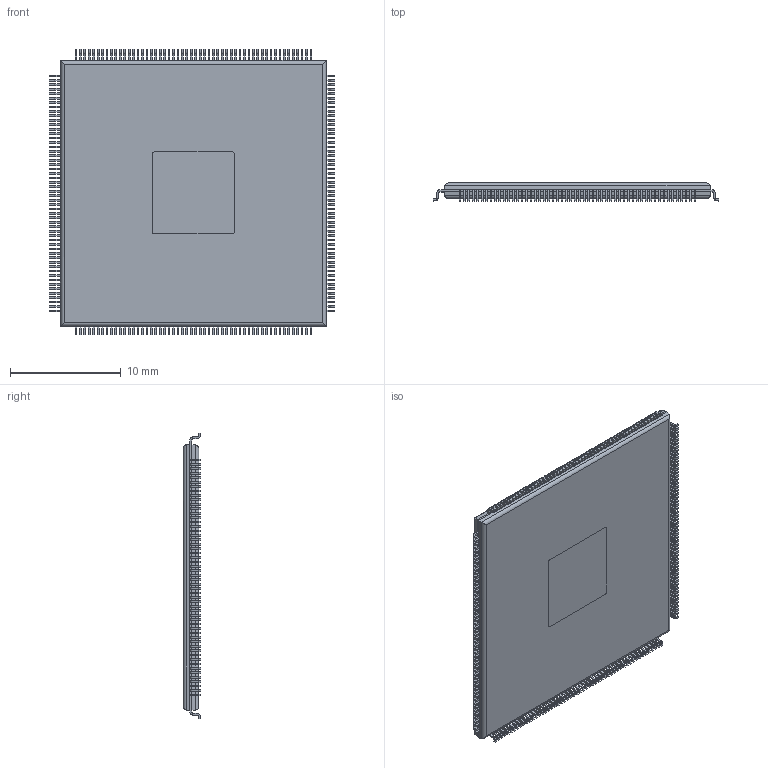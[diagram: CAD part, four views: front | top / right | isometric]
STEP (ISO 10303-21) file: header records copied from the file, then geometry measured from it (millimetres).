
FILE_DESCRIPTION(('STEP AP214'),'1');
FILE_NAME('Indigo4-L_Outline_r2.stp','2024-02-15T06:00:56',(' '),(' '),'Spatial InterOp 3D',' ',' ');
FILE_SCHEMA(('AUTOMOTIVE_DESIGN { 1 0 10303 214 1 1 1 1 }'));
Length unit declared in the file: metre
Products named in the file (1): Mold
Bounding box: 25.76 x 1.59 x 25.76 mm (x, y, z)
Volume: 807.7 mm3; surface area: 1597.1 mm2
Topology: 218 solids, 218 shells, 3074 faces, 7886 edges, 5252 vertices
Faces by surface type: plane 2188, cylinder 886
Entity records: 95575 total; most frequent: CARTESIAN_POINT 16430, DIRECTION 16234, ORIENTED_EDGE 15772, EDGE_CURVE 7886, LINE 6122, VECTOR 6122, VERTEX_POINT 5252, AXIS2_PLACEMENT_3D 5056
